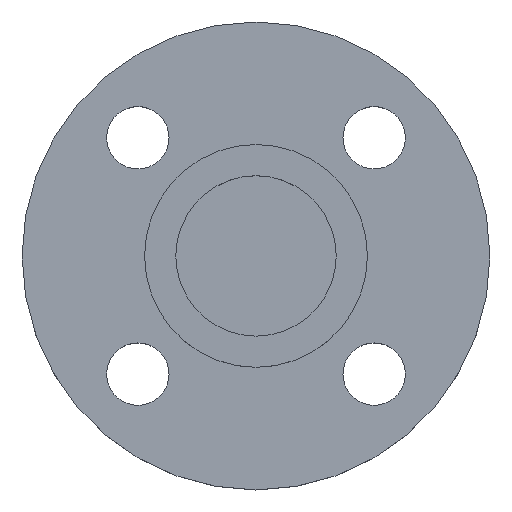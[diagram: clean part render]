
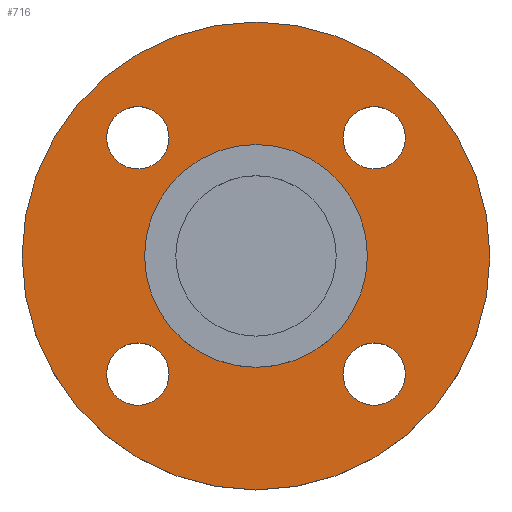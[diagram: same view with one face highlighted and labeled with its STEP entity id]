
A CAD part, top view. The second image highlights one B-rep face of the part: STEP entity #716.
In plain terms, the highlighted planar face has unit normal (0, 0, 1).
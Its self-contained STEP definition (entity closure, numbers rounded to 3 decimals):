
#10 = CARTESIAN_POINT ( 'NONE',  ( 25., 0., -4.5 ) ) ;
#20 = DIRECTION ( 'NONE',  ( 0., 0., -1. ) ) ;
#21 = VERTEX_POINT ( 'NONE', #224 ) ;
#28 = EDGE_LOOP ( 'NONE', ( #399, #401 ) ) ;
#32 = CIRCLE ( 'NONE', #36, 7. ) ;
#33 = EDGE_CURVE ( 'NONE', #698, #335, #701, .T. ) ;
#35 = VERTEX_POINT ( 'NONE', #376 ) ;
#36 = AXIS2_PLACEMENT_3D ( 'NONE', #709, #352, #792 ) ;
#39 = DIRECTION ( 'NONE',  ( 1., 0., 0. ) ) ;
#40 = DIRECTION ( 'NONE',  ( 0., 0., -1. ) ) ;
#42 = CARTESIAN_POINT ( 'NONE',  ( -52.5, 0., -4.5 ) ) ;
#43 = EDGE_LOOP ( 'NONE', ( #397, #398 ) ) ;
#49 = AXIS2_PLACEMENT_3D ( 'NONE', #447, #341, #784 ) ;
#60 = DIRECTION ( 'NONE',  ( 0., 0., -1. ) ) ;
#66 = AXIS2_PLACEMENT_3D ( 'NONE', #651, #452, #497 ) ;
#79 = FACE_BOUND ( 'NONE', #693, .T. ) ;
#110 = EDGE_CURVE ( 'NONE', #466, #490, #355, .T. ) ;
#115 = AXIS2_PLACEMENT_3D ( 'NONE', #330, #60, #822 ) ;
#129 = FACE_BOUND ( 'NONE', #802, .T. ) ;
#131 = EDGE_CURVE ( 'NONE', #215, #308, #32, .T. ) ;
#133 = CARTESIAN_POINT ( 'NONE',  ( 26.517, -26.517, -4.5 ) ) ;
#141 = EDGE_CURVE ( 'NONE', #21, #804, #342, .T. ) ;
#143 = AXIS2_PLACEMENT_3D ( 'NONE', #207, #20, #39 ) ;
#146 = DIRECTION ( 'NONE',  ( -1., 0., 0. ) ) ;
#161 = CARTESIAN_POINT ( 'NONE',  ( -19.517, -26.517, -4.5 ) ) ;
#171 = EDGE_CURVE ( 'NONE', #415, #653, #186, .T. ) ;
#176 = EDGE_CURVE ( 'NONE', #490, #466, #682, .T. ) ;
#178 = CARTESIAN_POINT ( 'NONE',  ( -33.517, 26.517, -4.5 ) ) ;
#186 = CIRCLE ( 'NONE', #285, 7. ) ;
#195 = FACE_BOUND ( 'NONE', #28, .T. ) ;
#198 = CIRCLE ( 'NONE', #615, 7. ) ;
#204 = EDGE_CURVE ( 'NONE', #308, #215, #293, .T. ) ;
#207 = CARTESIAN_POINT ( 'NONE',  ( -26.517, -26.517, -4.5 ) ) ;
#215 = VERTEX_POINT ( 'NONE', #161 ) ;
#222 = EDGE_CURVE ( 'NONE', #35, #613, #712, .T. ) ;
#224 = CARTESIAN_POINT ( 'NONE',  ( -25., 0., -4.5 ) ) ;
#230 = CARTESIAN_POINT ( 'NONE',  ( 33.517, -26.517, -4.5 ) ) ;
#239 = CARTESIAN_POINT ( 'NONE',  ( -26.517, 26.517, -4.5 ) ) ;
#241 = EDGE_CURVE ( 'NONE', #804, #21, #795, .T. ) ;
#245 = AXIS2_PLACEMENT_3D ( 'NONE', #531, #741, #263 ) ;
#249 = EDGE_CURVE ( 'NONE', #653, #415, #724, .T. ) ;
#254 = AXIS2_PLACEMENT_3D ( 'NONE', #391, #570, #814 ) ;
#256 = DIRECTION ( 'NONE',  ( 1., 0., 0. ) ) ;
#263 = DIRECTION ( 'NONE',  ( 1., 0., 0. ) ) ;
#285 = AXIS2_PLACEMENT_3D ( 'NONE', #782, #40, #612 ) ;
#293 = CIRCLE ( 'NONE', #143, 7. ) ;
#308 = VERTEX_POINT ( 'NONE', #410 ) ;
#321 = CARTESIAN_POINT ( 'NONE',  ( 0., 0., -4.5 ) ) ;
#330 = CARTESIAN_POINT ( 'NONE',  ( -26.517, 26.517, -4.5 ) ) ;
#335 = VERTEX_POINT ( 'NONE', #789 ) ;
#337 = FACE_OUTER_BOUND ( 'NONE', #544, .T. ) ;
#341 = DIRECTION ( 'NONE',  ( 0., 0., -1. ) ) ;
#342 = CIRCLE ( 'NONE', #49, 25. ) ;
#352 = DIRECTION ( 'NONE',  ( 0., 0., -1. ) ) ;
#355 = CIRCLE ( 'NONE', #749, 52.5 ) ;
#367 = AXIS2_PLACEMENT_3D ( 'NONE', #737, #761, #807 ) ;
#376 = CARTESIAN_POINT ( 'NONE',  ( -19.517, 26.517, -4.5 ) ) ;
#391 = CARTESIAN_POINT ( 'NONE',  ( 26.517, 26.517, -4.5 ) ) ;
#394 = ORIENTED_EDGE ( 'NONE', *, *, #33, .T. ) ;
#396 = ORIENTED_EDGE ( 'NONE', *, *, #762, .T. ) ;
#397 = ORIENTED_EDGE ( 'NONE', *, *, #131, .T. ) ;
#398 = ORIENTED_EDGE ( 'NONE', *, *, #204, .T. ) ;
#399 = ORIENTED_EDGE ( 'NONE', *, *, #222, .T. ) ;
#401 = ORIENTED_EDGE ( 'NONE', *, *, #592, .T. ) ;
#402 = ORIENTED_EDGE ( 'NONE', *, *, #249, .T. ) ;
#403 = ORIENTED_EDGE ( 'NONE', *, *, #171, .T. ) ;
#405 = ORIENTED_EDGE ( 'NONE', *, *, #141, .T. ) ;
#407 = ORIENTED_EDGE ( 'NONE', *, *, #241, .T. ) ;
#409 = ORIENTED_EDGE ( 'NONE', *, *, #110, .F. ) ;
#410 = CARTESIAN_POINT ( 'NONE',  ( -33.517, -26.517, -4.5 ) ) ;
#412 = ORIENTED_EDGE ( 'NONE', *, *, #176, .F. ) ;
#415 = VERTEX_POINT ( 'NONE', #767 ) ;
#447 = CARTESIAN_POINT ( 'NONE',  ( 0., 0., -4.5 ) ) ;
#452 = DIRECTION ( 'NONE',  ( 0., 0., -1. ) ) ;
#466 = VERTEX_POINT ( 'NONE', #785 ) ;
#490 = VERTEX_POINT ( 'NONE', #42 ) ;
#497 = DIRECTION ( 'NONE',  ( 1., 0., 0. ) ) ;
#518 = DIRECTION ( 'NONE',  ( 1., 0., 0. ) ) ;
#531 = CARTESIAN_POINT ( 'NONE',  ( 25., 0., -4.5 ) ) ;
#544 = EDGE_LOOP ( 'NONE', ( #409, #412 ) ) ;
#558 = EDGE_LOOP ( 'NONE', ( #402, #403 ) ) ;
#570 = DIRECTION ( 'NONE',  ( 0., 0., -1. ) ) ;
#582 = FACE_BOUND ( 'NONE', #43, .T. ) ;
#583 = AXIS2_PLACEMENT_3D ( 'NONE', #321, #770, #717 ) ;
#592 = EDGE_CURVE ( 'NONE', #613, #35, #198, .T. ) ;
#612 = DIRECTION ( 'NONE',  ( 1., 0., 0. ) ) ;
#613 = VERTEX_POINT ( 'NONE', #178 ) ;
#615 = AXIS2_PLACEMENT_3D ( 'NONE', #239, #720, #518 ) ;
#625 = FACE_BOUND ( 'NONE', #558, .T. ) ;
#628 = DIRECTION ( 'NONE',  ( 0., 0., -1. ) ) ;
#647 = CIRCLE ( 'NONE', #735, 7. ) ;
#649 = CARTESIAN_POINT ( 'NONE',  ( 0., 0., -4.5 ) ) ;
#651 = CARTESIAN_POINT ( 'NONE',  ( 26.517, -26.517, -4.5 ) ) ;
#653 = VERTEX_POINT ( 'NONE', #779 ) ;
#678 = PLANE ( 'NONE',  #245 ) ;
#682 = CIRCLE ( 'NONE', #367, 52.5 ) ;
#693 = EDGE_LOOP ( 'NONE', ( #405, #407 ) ) ;
#698 = VERTEX_POINT ( 'NONE', #230 ) ;
#701 = CIRCLE ( 'NONE', #66, 7. ) ;
#709 = CARTESIAN_POINT ( 'NONE',  ( -26.517, -26.517, -4.5 ) ) ;
#712 = CIRCLE ( 'NONE', #115, 7. ) ;
#716 = ADVANCED_FACE ( 'NONE', ( #129, #582, #195, #625, #79, #337 ), #678, .T. ) ;
#717 = DIRECTION ( 'NONE',  ( -1., 0., 0. ) ) ;
#720 = DIRECTION ( 'NONE',  ( 0., 0., -1. ) ) ;
#724 = CIRCLE ( 'NONE', #254, 7. ) ;
#735 = AXIS2_PLACEMENT_3D ( 'NONE', #133, #628, #256 ) ;
#737 = CARTESIAN_POINT ( 'NONE',  ( 0., 0., -4.5 ) ) ;
#741 = DIRECTION ( 'NONE',  ( 0., 0., 1. ) ) ;
#746 = DIRECTION ( 'NONE',  ( 0., 0., -1. ) ) ;
#749 = AXIS2_PLACEMENT_3D ( 'NONE', #649, #746, #146 ) ;
#761 = DIRECTION ( 'NONE',  ( 0., 0., -1. ) ) ;
#762 = EDGE_CURVE ( 'NONE', #335, #698, #647, .T. ) ;
#767 = CARTESIAN_POINT ( 'NONE',  ( 19.517, 26.517, -4.5 ) ) ;
#770 = DIRECTION ( 'NONE',  ( 0., 0., -1. ) ) ;
#779 = CARTESIAN_POINT ( 'NONE',  ( 33.517, 26.517, -4.5 ) ) ;
#782 = CARTESIAN_POINT ( 'NONE',  ( 26.517, 26.517, -4.5 ) ) ;
#784 = DIRECTION ( 'NONE',  ( -1., 0., 0. ) ) ;
#785 = CARTESIAN_POINT ( 'NONE',  ( 52.5, 0., -4.5 ) ) ;
#789 = CARTESIAN_POINT ( 'NONE',  ( 19.517, -26.517, -4.5 ) ) ;
#792 = DIRECTION ( 'NONE',  ( 1., 0., 0. ) ) ;
#795 = CIRCLE ( 'NONE', #583, 25. ) ;
#802 = EDGE_LOOP ( 'NONE', ( #394, #396 ) ) ;
#804 = VERTEX_POINT ( 'NONE', #10 ) ;
#807 = DIRECTION ( 'NONE',  ( -1., 0., 0. ) ) ;
#814 = DIRECTION ( 'NONE',  ( 1., 0., 0. ) ) ;
#822 = DIRECTION ( 'NONE',  ( 1., 0., 0. ) ) ;
